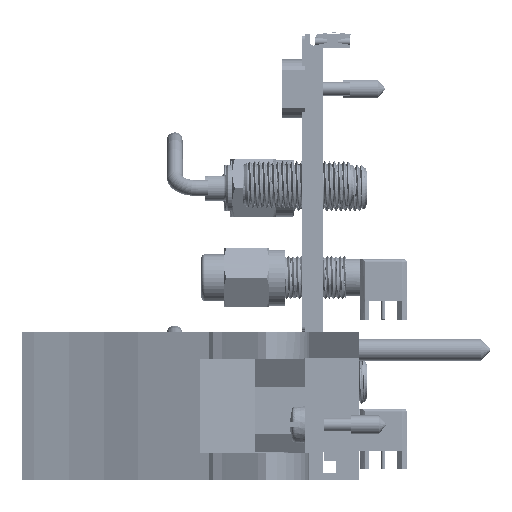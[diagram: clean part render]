
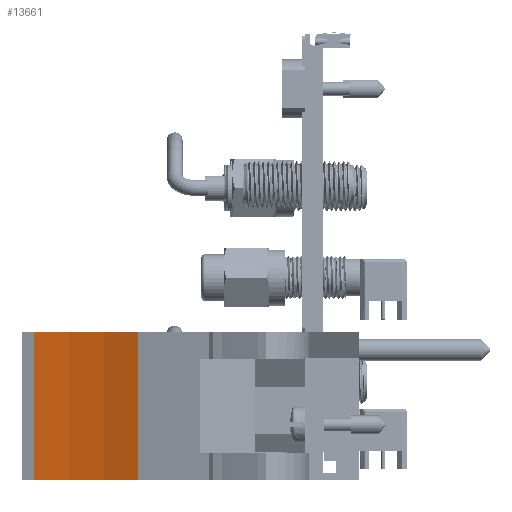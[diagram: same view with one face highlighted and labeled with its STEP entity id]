
A CAD part, front view. The second image highlights one B-rep face of the part: STEP entity #13661.
In plain terms, the highlighted cylindrical face has radius 51.46 mm (diameter 102.919 mm), a partial arc.
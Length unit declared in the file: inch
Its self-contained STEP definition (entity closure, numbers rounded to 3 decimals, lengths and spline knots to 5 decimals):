
#4266=CARTESIAN_POINT('',(-5.96334,-4.11555,
0.49776));
#4267=DIRECTION('',(0.,0.,-1.));
#4268=DIRECTION('',(0.16,0.987,0.));
#4269=AXIS2_PLACEMENT_3D('',#4266,#4267,#4268);
#4467=CARTESIAN_POINT('',(-5.96334,-4.11555,
-0.29024));
#4468=DIRECTION('',(0.,0.,-1.));
#4469=DIRECTION('',(0.16,0.987,0.));
#4470=AXIS2_PLACEMENT_3D('',#4467,#4468,#4469);
#4687=DIRECTION('',(0.,0.,-1.));
#4688=VECTOR('',#4687,0.7879);
#4689=CARTESIAN_POINT('',(-5.64001,-2.11555,
0.49776));
#4690=LINE('',#4689,#4688);
#4691=DIRECTION('',(0.,0.,1.));
#4692=VECTOR('',#4691,0.7879);
#4693=CARTESIAN_POINT('',(-5.08204,-2.29131,
-0.29014));
#4694=LINE('',#4693,#4692);
#9850=CARTESIAN_POINT('',(-5.08204,-2.29131,
-0.29014));
#9851=VERTEX_POINT('',#9850);
#9852=CARTESIAN_POINT('',(-5.64001,-2.11555,
-0.29024));
#9853=VERTEX_POINT('',#9852);
#9964=CARTESIAN_POINT('',(-5.08204,-2.29131,
0.49776));
#9965=VERTEX_POINT('',#9964);
#9966=CARTESIAN_POINT('',(-5.64001,-2.11555,
0.49776));
#9967=VERTEX_POINT('',#9966);
#13649=CARTESIAN_POINT('',(-5.96334,-4.11555,
-0.306));
#13650=DIRECTION('',(0.,0.,1.));
#13651=DIRECTION('',(0.,1.,0.));
#13652=AXIS2_PLACEMENT_3D('',#13649,#13650,#13651);
#13653=CYLINDRICAL_SURFACE('',#13652,2.02597);
#13654=ORIENTED_EDGE('',*,*,#13365,.F.);
#13656=ORIENTED_EDGE('',*,*,#13655,.F.);
#13657=ORIENTED_EDGE('',*,*,#13111,.T.);
#13658=ORIENTED_EDGE('',*,*,#13635,.F.);
#13659=EDGE_LOOP('',(#13654,#13656,#13657,#13658));
#13660=FACE_OUTER_BOUND('',#13659,.F.);
#13661=ADVANCED_FACE('',(#13660),#13653,.F.);
#4270=CIRCLE('',#4269,2.02597);
#4471=CIRCLE('',#4470,2.02597);
#13111=EDGE_CURVE('',#9967,#9965,#4270,.T.);
#13365=EDGE_CURVE('',#9853,#9851,#4471,.T.);
#13635=EDGE_CURVE('',#9851,#9965,#4694,.T.);
#13655=EDGE_CURVE('',#9967,#9853,#4690,.T.);
